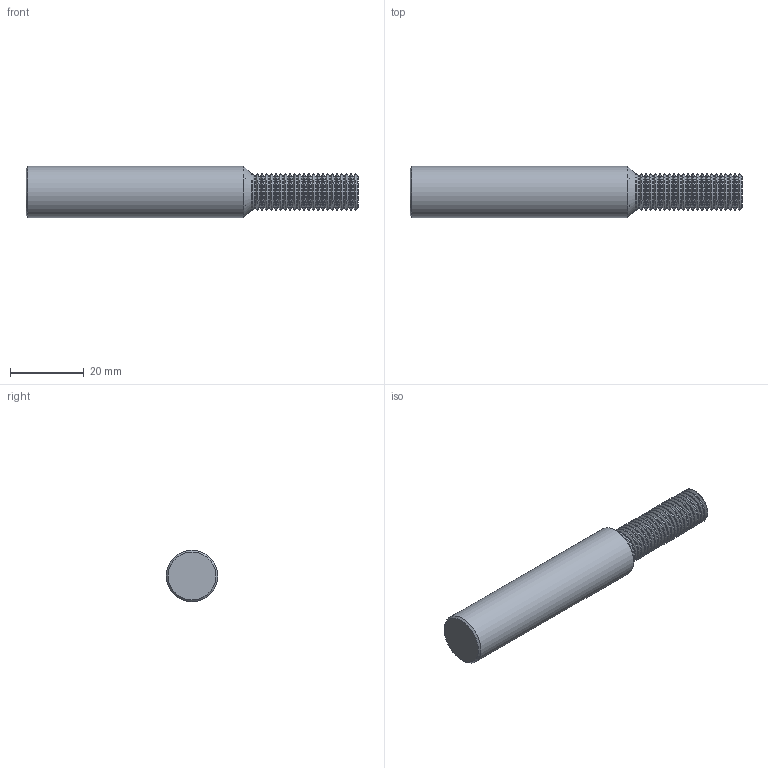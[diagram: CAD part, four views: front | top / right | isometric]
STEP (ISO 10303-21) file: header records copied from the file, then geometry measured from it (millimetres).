
FILE_DESCRIPTION(/* description */ (''),/* implementation_level */ '2;1');
FILE_NAME(/* name */ '171603-00036461-TDM',/* time_stamp */ '2024-02-21T08:40:09+01:00',/* author */ (''),/* organization */ (''),/* preprocessor_version */ 'ST-DEVELOPER v16.5',/* originating_system */ 'HiCAD 2017 2201.0 Build 268',/* authorisation */ '');
FILE_SCHEMA (('AUTOMOTIVE_DESIGN { 1 0 10303 214 1 1 1 1 }'));
Length unit declared in the file: millimetre
Products named in the file (3): Root; ROTATIONSTEIL_0
Assembly tree (2 placements, depth 3):
  Root
    ROTATIONSTEIL_0
      ROTATIONSTEIL_0
Bounding box: 90 x 14 x 14 mm (x, y, z)
Volume: 11202.8 mm3; surface area: 4480.9 mm2
Topology: 2 solids, 2 shells, 144 faces, 285 edges, 145 vertices
Faces by surface type: cone 48, cylinder 47, torus 45, plane 4
Full cylindrical faces by diameter (mm): 8.534 x23, 9.9 x23, 14 x1
Entity records: 4344 total; most frequent: DIRECTION 580, CARTESIAN_POINT 432, AXIS2_PLACEMENT_3D 290, PRESENTATION_STYLE_ASSIGNMENT 286, COLOUR_RGB 286, DRAUGHTING_PRE_DEFINED_CURVE_FONT 284, CURVE_STYLE 284, OVER_RIDING_STYLED_ITEM 284
